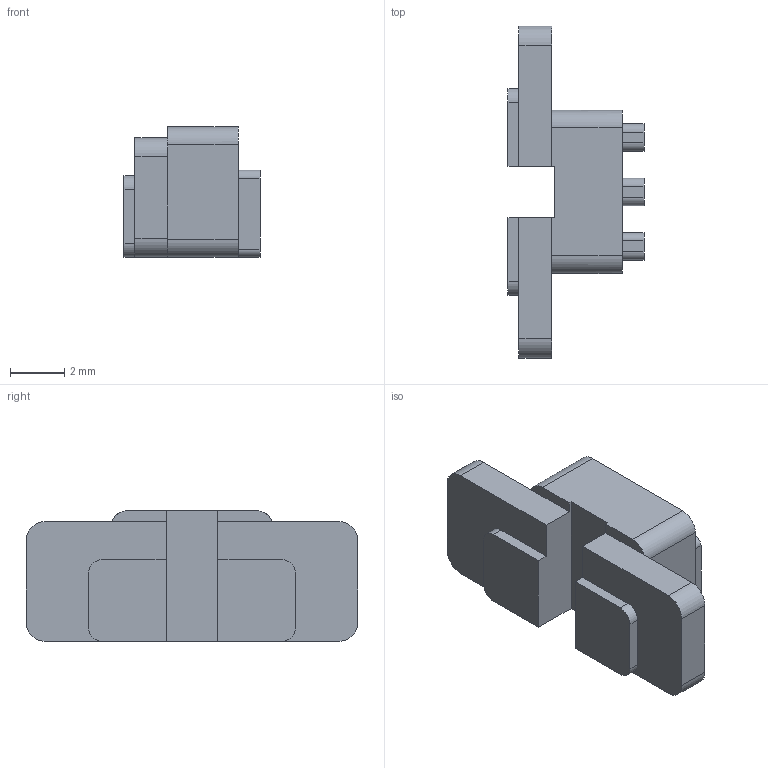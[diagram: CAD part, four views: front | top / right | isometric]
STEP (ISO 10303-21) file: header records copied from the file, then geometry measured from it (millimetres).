
FILE_DESCRIPTION(('Open CASCADE Model'),'2;1');
FILE_NAME('Open CASCADE Shape Model','2026-11-28T16:01:11',('Author'),( 'Open CASCADE'),'Open CASCADE STEP processor 8.0','build123d', 'Unknown');
FILE_SCHEMA(('AUTOMOTIVE_DESIGN { 1 0 10303 214 1 1 1 1 }'));
Length unit declared in the file: millimetre
Products named in the file (2): =>[0:1:1:2]; SOLID
Assembly tree (1 placements, depth 2):
  =>[0:1:1:2]
    SOLID
Bounding box: 5 x 12.2 x 4.8 mm (x, y, z)
Volume: 141.2 mm3; surface area: 237.1 mm2
Topology: 1 solids, 1 shells, 60 faces, 172 edges, 114 vertices
Faces by surface type: plane 36, cylinder 24
Entity records: 4314 total; most frequent: CARTESIAN_POINT 972, DIRECTION 610, LINE 376, VECTOR 376, ORIENTED_EDGE 344, PCURVE 344, DEFINITIONAL_REPRESENTATION 344, EDGE_CURVE 172
